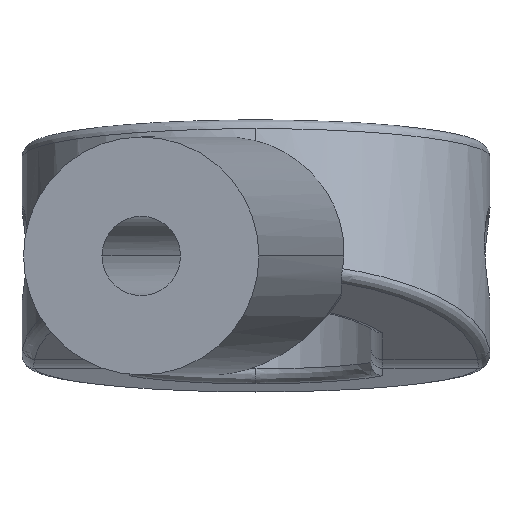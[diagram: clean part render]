
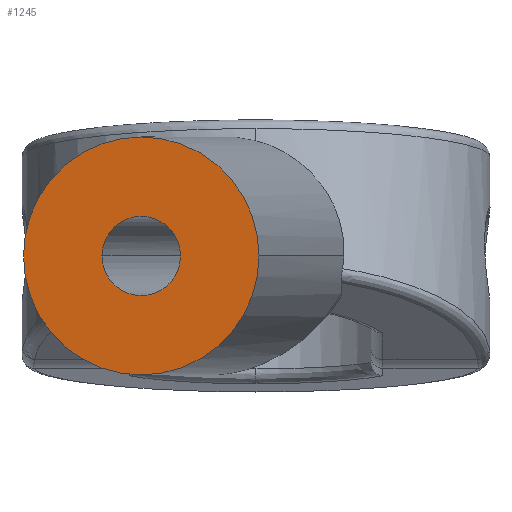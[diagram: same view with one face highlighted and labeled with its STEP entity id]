
A CAD part, left-side view. The second image highlights one B-rep face of the part: STEP entity #1245.
In plain terms, the highlighted planar face has unit normal (-0.99, 0.143, 0).
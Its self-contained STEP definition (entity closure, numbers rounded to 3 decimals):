
#103 = AXIS2_PLACEMENT_3D ( 'NONE', #1684, #2157, #1367 ) ;
#109 = DIRECTION ( 'NONE',  ( 0.99, -0.143, 0. ) ) ;
#120 = PLANE ( 'NONE',  #2090 ) ;
#311 = EDGE_CURVE ( 'NONE', #349, #1588, #2472, .T. ) ;
#326 = DIRECTION ( 'NONE',  ( 0.99, -0.143, 0. ) ) ;
#335 = EDGE_CURVE ( 'NONE', #1588, #349, #1128, .T. ) ;
#349 = VERTEX_POINT ( 'NONE', #2382 ) ;
#475 = FACE_BOUND ( 'NONE', #1795, .T. ) ;
#503 = DIRECTION ( 'NONE',  ( -0.143, -0.99, 0. ) ) ;
#581 = EDGE_CURVE ( 'NONE', #1848, #1041, #1464, .T. ) ;
#625 = CARTESIAN_POINT ( 'NONE',  ( 35.086, -0.076, 0. ) ) ;
#700 = DIRECTION ( 'NONE',  ( 0.99, -0.143, 0. ) ) ;
#707 = EDGE_LOOP ( 'NONE', ( #1459, #1579 ) ) ;
#778 = ORIENTED_EDGE ( 'NONE', *, *, #311, .T. ) ;
#847 = CARTESIAN_POINT ( 'NONE',  ( 35.513, 2.893, 0. ) ) ;
#904 = DIRECTION ( 'NONE',  ( 0.143, 0.99, 0. ) ) ;
#1041 = VERTEX_POINT ( 'NONE', #1958 ) ;
#1128 = CIRCLE ( 'NONE', #2340, 1. ) ;
#1132 = EDGE_CURVE ( 'NONE', #1041, #1848, #1778, .T. ) ;
#1236 = DIRECTION ( 'NONE',  ( 0.99, -0.143, 0. ) ) ;
#1245 = ADVANCED_FACE ( 'NONE', ( #475, #2218 ), #120, .F. ) ;
#1367 = DIRECTION ( 'NONE',  ( 0.143, 0.99, 0. ) ) ;
#1396 = DIRECTION ( 'NONE',  ( 0.143, 0.99, 0. ) ) ;
#1459 = ORIENTED_EDGE ( 'NONE', *, *, #1132, .F. ) ;
#1464 = CIRCLE ( 'NONE', #1481, 3. ) ;
#1481 = AXIS2_PLACEMENT_3D ( 'NONE', #1970, #1236, #1396 ) ;
#1559 = AXIS2_PLACEMENT_3D ( 'NONE', #847, #326, #503 ) ;
#1579 = ORIENTED_EDGE ( 'NONE', *, *, #581, .F. ) ;
#1588 = VERTEX_POINT ( 'NONE', #2060 ) ;
#1684 = CARTESIAN_POINT ( 'NONE',  ( 35.513, 2.893, 0. ) ) ;
#1778 = CIRCLE ( 'NONE', #103, 3. ) ;
#1795 = EDGE_LOOP ( 'NONE', ( #2163, #778 ) ) ;
#1829 = CARTESIAN_POINT ( 'NONE',  ( 36.89, 12.453, 7.5 ) ) ;
#1848 = VERTEX_POINT ( 'NONE', #625 ) ;
#1958 = CARTESIAN_POINT ( 'NONE',  ( 35.941, 5.863, 0. ) ) ;
#1970 = CARTESIAN_POINT ( 'NONE',  ( 35.513, 2.893, 0. ) ) ;
#2060 = CARTESIAN_POINT ( 'NONE',  ( 35.371, 1.904, 0. ) ) ;
#2090 = AXIS2_PLACEMENT_3D ( 'NONE', #1829, #700, #904 ) ;
#2157 = DIRECTION ( 'NONE',  ( 0.99, -0.143, 0. ) ) ;
#2163 = ORIENTED_EDGE ( 'NONE', *, *, #335, .T. ) ;
#2218 = FACE_OUTER_BOUND ( 'NONE', #707, .T. ) ;
#2340 = AXIS2_PLACEMENT_3D ( 'NONE', #2402, #109, #2373 ) ;
#2373 = DIRECTION ( 'NONE',  ( -0.143, -0.99, 0. ) ) ;
#2382 = CARTESIAN_POINT ( 'NONE',  ( 35.656, 3.883, 0. ) ) ;
#2402 = CARTESIAN_POINT ( 'NONE',  ( 35.513, 2.893, 0. ) ) ;
#2472 = CIRCLE ( 'NONE', #1559, 1. ) ;
